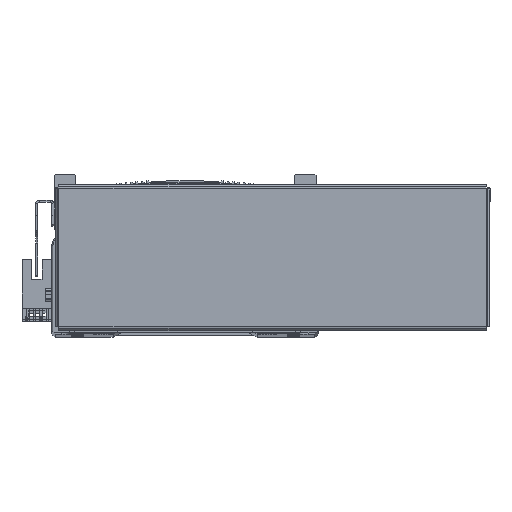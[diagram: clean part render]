
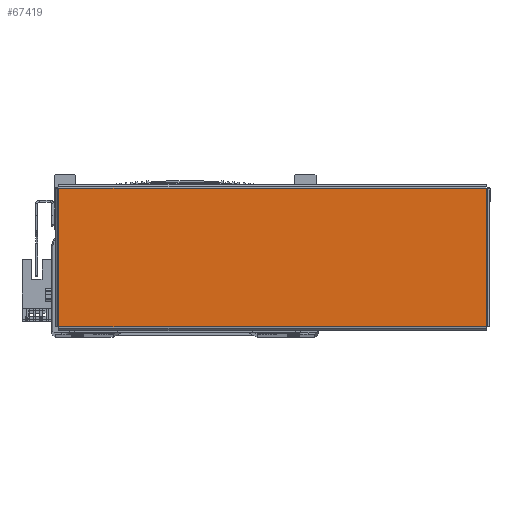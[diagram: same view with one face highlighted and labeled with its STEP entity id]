
A CAD part, top view. The second image highlights one B-rep face of the part: STEP entity #67419.
In plain terms, the highlighted planar face has unit normal (0, 0, 1) as drawn and (0, 0, -1) by its records, which use the part's own axes.
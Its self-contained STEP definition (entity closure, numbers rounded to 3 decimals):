
#29980 = EDGE_LOOP ( 'NONE', ( #70314, #70345, #70377, #70460 ) ) ;
#36873 = VERTEX_POINT ( 'NONE', #52687 ) ;
#36902 = VERTEX_POINT ( 'NONE', #52685 ) ;
#36928 = VERTEX_POINT ( 'NONE', #52758 ) ;
#36983 = VERTEX_POINT ( 'NONE', #52835 ) ;
#46198 = FACE_OUTER_BOUND ( 'NONE', #29980, .T. ) ;
#52685 = CARTESIAN_POINT ( 'NONE',  ( 97.863, -31.763, -1. ) ) ;
#52687 = CARTESIAN_POINT ( 'NONE',  ( -97.863, -31.763, -1. ) ) ;
#52758 = CARTESIAN_POINT ( 'NONE',  ( 97.863, 31.763, -1. ) ) ;
#52835 = CARTESIAN_POINT ( 'NONE',  ( -97.863, 31.763, -1. ) ) ;
#67419 = ADVANCED_FACE ( 'NONE', ( #46198 ), #74050, .F. ) ;
#68941 = EDGE_CURVE ( 'NONE', #36928, #36902, #80748, .T. ) ;
#68942 = EDGE_CURVE ( 'NONE', #36902, #36873, #80776, .T. ) ;
#68944 = EDGE_CURVE ( 'NONE', #36983, #36928, #80816, .T. ) ;
#68960 = EDGE_CURVE ( 'NONE', #36873, #36983, #80862, .T. ) ;
#70314 = ORIENTED_EDGE ( 'NONE', *, *, #68941, .T. ) ;
#70345 = ORIENTED_EDGE ( 'NONE', *, *, #68942, .T. ) ;
#70377 = ORIENTED_EDGE ( 'NONE', *, *, #68960, .T. ) ;
#70460 = ORIENTED_EDGE ( 'NONE', *, *, #68944, .T. ) ;
#71287 = DIRECTION ( 'NONE',  ( 0., -1., 0. ) ) ;
#71320 = CARTESIAN_POINT ( 'NONE',  ( 97.893, -31.763, -1. ) ) ;
#71339 = CARTESIAN_POINT ( 'NONE',  ( 97.863, 31.793, -1. ) ) ;
#71342 = DIRECTION ( 'NONE',  ( -1., 0., 0. ) ) ;
#71350 = CARTESIAN_POINT ( 'NONE',  ( -97.893, 31.763, -1. ) ) ;
#71352 = DIRECTION ( 'NONE',  ( 1., 0., 0. ) ) ;
#71382 = CARTESIAN_POINT ( 'NONE',  ( -97.863, -31.793, -1. ) ) ;
#71436 = DIRECTION ( 'NONE',  ( 0., 1., 0. ) ) ;
#74011 = DIRECTION ( 'NONE',  ( 0., 0., 1. ) ) ;
#74019 = DIRECTION ( 'NONE',  ( 1., 0., 0. ) ) ;
#74050 = PLANE ( 'NONE',  #79132 ) ;
#74052 = CARTESIAN_POINT ( 'NONE',  ( 0., 0., -1. ) ) ;
#79132 = AXIS2_PLACEMENT_3D ( 'NONE', #74052, #74011, #74019 ) ;
#80748 = LINE ( 'NONE', #71339, #80772 ) ;
#80770 = VECTOR ( 'NONE', #71342, 1000. ) ;
#80772 = VECTOR ( 'NONE', #71287, 1000. ) ;
#80776 = LINE ( 'NONE', #71320, #80770 ) ;
#80816 = LINE ( 'NONE', #71350, #80828 ) ;
#80828 = VECTOR ( 'NONE', #71352, 1000. ) ;
#80862 = LINE ( 'NONE', #71382, #80954 ) ;
#80954 = VECTOR ( 'NONE', #71436, 1000. ) ;
